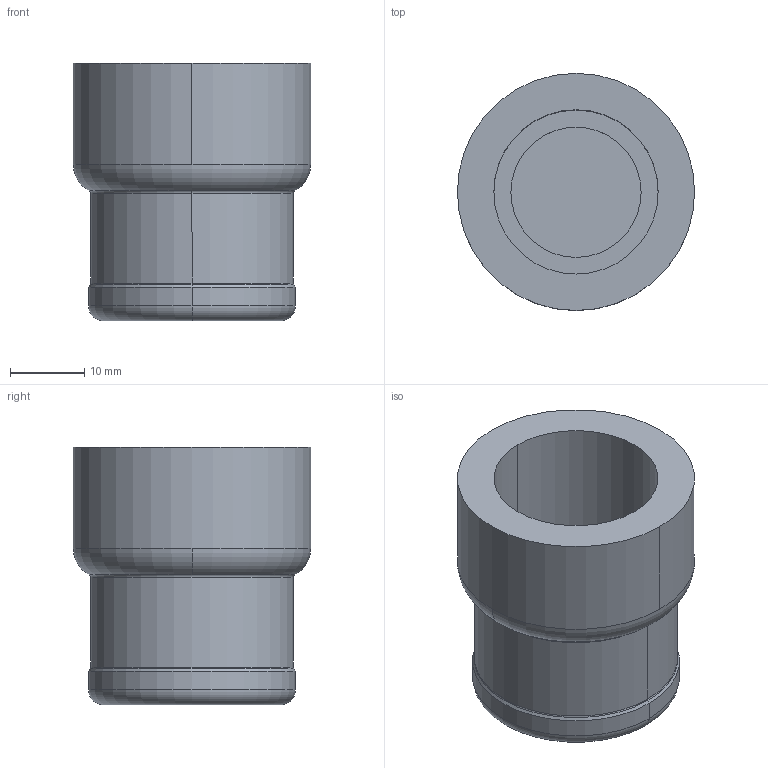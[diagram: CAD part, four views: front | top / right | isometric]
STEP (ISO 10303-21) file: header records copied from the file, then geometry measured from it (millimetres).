
FILE_DESCRIPTION(('Creo Elements/Direct Modeling STEP Export'),'2;1');
FILE_NAME('C9429_1-2.stp','2020-07-17T11:53:02',(''),(''),'PTC Creo Elements/Direct Modeling STEP processor for AP214 (Solid Model)','PTC Creo Elements/Direct Modeling 19.0C 15-Aug-2015 (C) Parametric Technology GmbH','');
FILE_SCHEMA(('AUTOMOTIVE_DESIGN { 1 0 10303 214 1 1 1 1 }'));
Length unit declared in the file: millimetre
Products named in the file (2): C9429_1-2
Assembly tree (1 placements, depth 2):
  C9429_1-2
    C9429_1-2
Bounding box: 32.05 x 32.05 x 34.77 mm (x, y, z)
Volume: 12072.8 mm3; surface area: 6866 mm2
Topology: 1 solids, 1 shells, 24 faces, 51 edges, 31 vertices
Faces by surface type: cylinder 10, torus 8, plane 4, cone 2
Entity records: 617 total; most frequent: DIRECTION 106, ORIENTED_EDGE 102, CARTESIAN_POINT 90, EDGE_CURVE 51, AXIS2_PLACEMENT_3D 47, VERTEX_POINT 31, EDGE_LOOP 26, FACE_OUTER_BOUND 24
